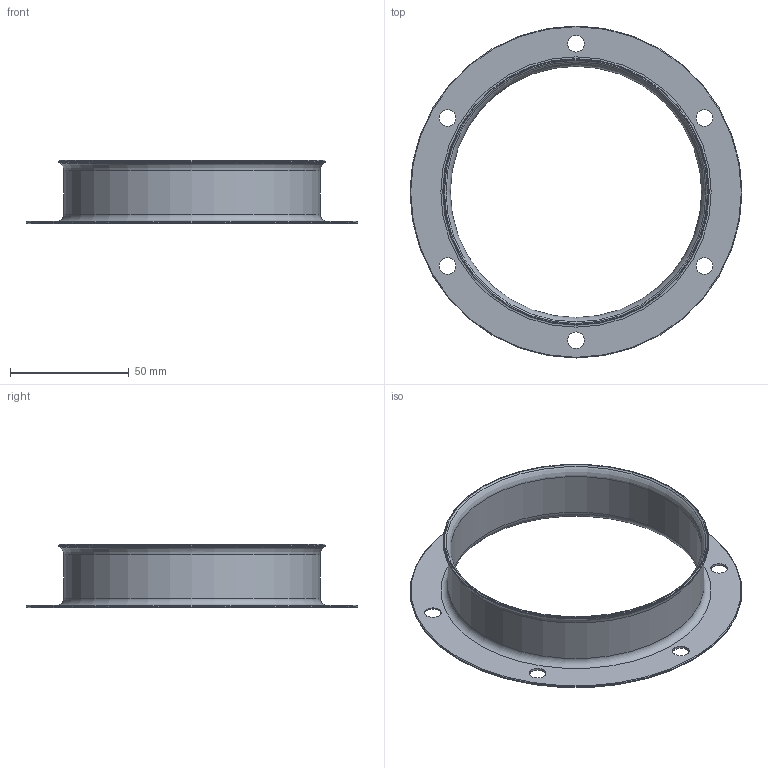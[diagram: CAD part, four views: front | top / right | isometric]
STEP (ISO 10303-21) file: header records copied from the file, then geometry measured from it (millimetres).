
FILE_DESCRIPTION(('STEP AP203'), '1');
FILE_NAME('5122700 Flange', '2024-06-05T14:06:11', ('Niko'), (''), 'C3D Converter', 'C3D Toolkit', '');
FILE_SCHEMA(('CONFIG_CONTROL_DESIGN'));
Length unit declared in the file: millimetre
Products named in the file (1): 1
Bounding box: 140 x 140 x 26.72 mm (x, y, z)
Volume: 14684.4 mm3; surface area: 30152.3 mm2
Topology: 1 solids, 1 shells, 23 faces, 58 edges, 37 vertices
Faces by surface type: cylinder 9, cone 8, torus 4, plane 2
Full cylindrical faces by diameter (mm): 7 x6, 106 x1, 108 x1, 140 x1
Entity records: 856 total; most frequent: DIRECTION 122, CARTESIAN_POINT 98, ORIENTED_EDGE 74, AXIS2_PLACEMENT_3D 61, EDGE_LOOP 58, EDGE_CURVE 37, VERTEX_POINT 37, CIRCLE 37
